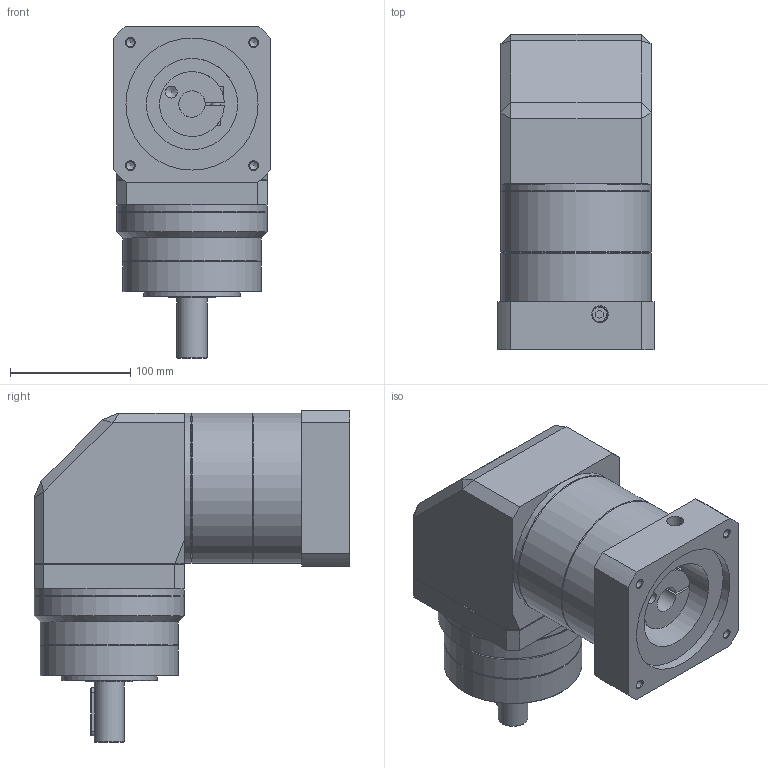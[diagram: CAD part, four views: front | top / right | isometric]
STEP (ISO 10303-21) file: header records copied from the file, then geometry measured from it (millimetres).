
FILE_DESCRIPTION(/* description */ ('STEP AP214'),/* implementation_level */ '2;1');
FILE_NAME(/* name */ 'C:\Users\m039\Desktop\精密行星标准图2019.5.20\行星外形图\B版精密行星外形图3D\GPESR\GPESR120-(3-100) 外形图-∅22x73.5-∅110x8-∅145xM8-□130.stp',/* time_stamp */ '2021-12-17T13:35:54+08:00',/* author */ ('m039'),/* organization */ ('Î¢ÈíÖÐ¹ú'),/* preprocessor_version */ 'ST-DEVELOPER v17.2',/* originating_system */ 'Autodesk Inventor 2019',/* authorisation */ '');
FILE_SCHEMA (('AUTOMOTIVE_DESIGN { 1 0 10303 214 3 1 1 }'));
Length unit declared in the file: millimetre
Products named in the file (1): GPESR120
Bounding box: 130 x 263 x 276.5 mm (x, y, z)
Volume: 4397289.1 mm3; surface area: 235141.3 mm2
Topology: 1 solids, 1 shells, 155 faces, 406 edges, 266 vertices
Faces by surface type: plane 86, cylinder 36, cone 28, torus 5
Full cylindrical faces by diameter (mm): 6.8 x4, 8 x1, 8.5 x5, 10 x1, 13 x1, 14 x1, 22 x1, 25 x1, 39.5 x1, 40 x1, 76 x1, 80 x1, 110 x1, 115 x2, 125 x5
Entity records: 4912 total; most frequent: CARTESIAN_POINT 926, DIRECTION 871, ORIENTED_EDGE 792, EDGE_CURVE 396, AXIS2_PLACEMENT_3D 325, VERTEX_POINT 266, LINE 221, VECTOR 221
